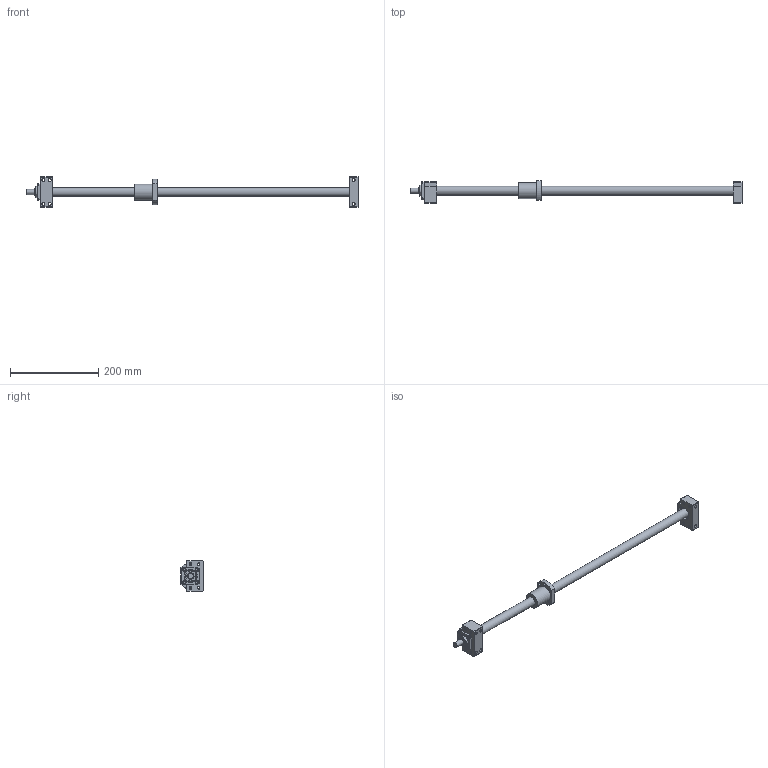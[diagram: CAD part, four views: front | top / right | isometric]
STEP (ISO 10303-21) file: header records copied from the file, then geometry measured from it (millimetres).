
FILE_DESCRIPTION(/* description */ ('','CAx-IF Rec.Pracs.---Representation and Presentation of Product Manufacturing Information (PMI)---4.0---2014-10-13'),/* implementation_level */ '2;1');
FILE_NAME(/* name */ 'F2RFU-2005-0750-BF15-BK15ASM v1.step',/* time_stamp */ '2024-12-17T10:39:53-05:00',/* author */ (''),/* organization */ (''),/* preprocessor_version */ 'ST-DEVELOPER v20',/* originating_system */ 'Autodesk Translation Framework v13.20.0.188',/* authorisation */ '');
FILE_SCHEMA (('AP242_MANAGED_MODEL_BASED_3D_ENGINEERING_MIM_LF { 1 0 10303 442 1 1 4 }'));
Length unit declared in the file: millimetre
Products named in the file (12): F2RFU-2005-0750-BF15-BK15ASM; 20xx_750; Screw20; BF15EndMach; BK15EndMach; BK15Yes; BK 15; BK 15collar; BF15; BF 15 Part1; BF 15 Part2; 20x5 Ball Nut
Assembly tree (11 placements, depth 3):
  F2RFU-2005-0750-BF15-BK15ASM
    20xx_750
      Screw20
      BF15EndMach
      BK15EndMach
    BK15Yes
      BK 15
      BK 15collar
    BF15
      BF 15 Part1
      BF 15 Part2
    20x5 Ball Nut
Bounding box: 751.5 x 50.19 x 70 mm (x, y, z)
Volume: 393554.6 mm3; surface area: 103821.3 mm2
Topology: 8 solids, 9 shells, 243 faces, 615 edges, 417 vertices
Faces by surface type: plane 133, cylinder 86, cone 19, torus 5
Full cylindrical faces by diameter (mm): 3 x2, 5 x1, 5.5 x20, 6.6 x12, 6.8 x4, 7.8 x4, 11 x6, 12 x1, 13.376 x1, 14.3 x1, 14.884 x1, 15 x5, 18 x1, 19.5 x2, 20 x2, 20.2 x1, 20.4 x2, 24 x2, 26.5 x2, 28 x2, 28.1 x1, 32 x2, 36 x1
Entity records: 8809 total; most frequent: CARTESIAN_POINT 2497, ORIENTED_EDGE 1230, DIRECTION 1221, EDGE_CURVE 615, AXIS2_PLACEMENT_3D 450, VERTEX_POINT 417, EDGE_LOOP 346, LINE 321
